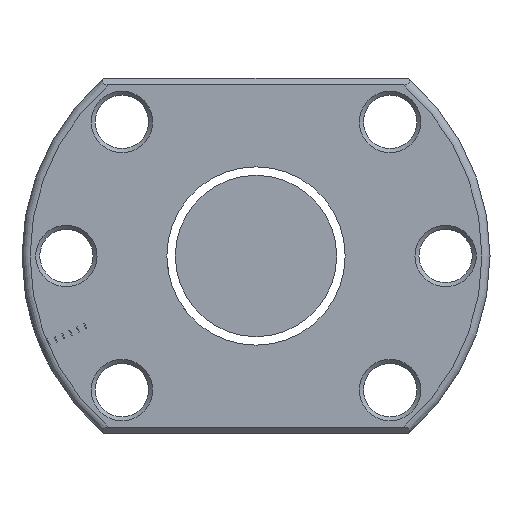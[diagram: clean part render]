
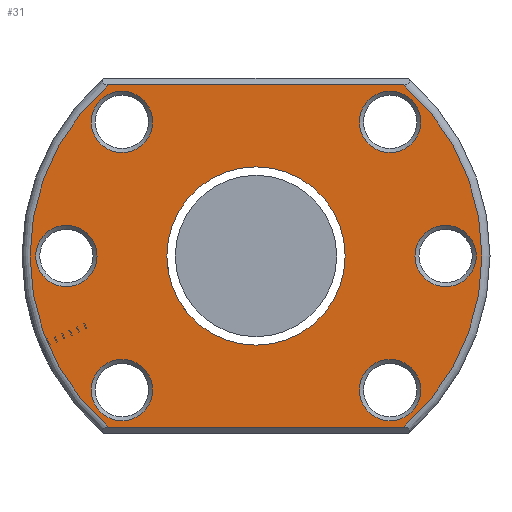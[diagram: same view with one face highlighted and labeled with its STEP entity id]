
A CAD part, left-side view. The second image highlights one B-rep face of the part: STEP entity #31.
In plain terms, the highlighted planar face has unit normal (-1, 0, 0).
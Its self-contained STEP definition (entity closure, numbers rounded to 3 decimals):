
#31 = ADVANCED_FACE ( 'NONE', ( #1393, #2676, #484, #2642, #2880, #705, #2162, #2425 ), #986, .T. ) ;
#49 = LINE ( 'NONE', #1010, #2459 ) ;
#64 = DIRECTION ( 'NONE',  ( 1., 0., 0. ) ) ;
#77 = ORIENTED_EDGE ( 'NONE', *, *, #749, .T. ) ;
#86 = AXIS2_PLACEMENT_3D ( 'NONE', #1630, #924, #2357 ) ;
#138 = VERTEX_POINT ( 'NONE', #2912 ) ;
#164 = DIRECTION ( 'NONE',  ( 0., -1., 0. ) ) ;
#176 = CARTESIAN_POINT ( 'NONE',  ( -51., 11.05, 0. ) ) ;
#187 = AXIS2_PLACEMENT_3D ( 'NONE', #1304, #2578, #164 ) ;
#218 = AXIS2_PLACEMENT_3D ( 'NONE', #2473, #2782, #1978 ) ;
#328 = AXIS2_PLACEMENT_3D ( 'NONE', #1846, #1325, #869 ) ;
#329 = ORIENTED_EDGE ( 'NONE', *, *, #1867, .T. ) ;
#343 = CIRCLE ( 'NONE', #187, 3.8 ) ;
#390 = VERTEX_POINT ( 'NONE', #1370 ) ;
#431 = VECTOR ( 'NONE', #2984, 1000. ) ;
#442 = CIRCLE ( 'NONE', #2215, 28. ) ;
#448 = CARTESIAN_POINT ( 'NONE',  ( -51., -20.417, 16.617 ) ) ;
#477 = EDGE_CURVE ( 'NONE', #2366, #2366, #696, .T. ) ;
#484 = FACE_BOUND ( 'NONE', #2710, .T. ) ;
#502 = CARTESIAN_POINT ( 'NONE',  ( -51., 29., 0. ) ) ;
#510 = DIRECTION ( 'NONE',  ( -1., 0., 0. ) ) ;
#603 = CARTESIAN_POINT ( 'NONE',  ( -51., -16.617, -16.617 ) ) ;
#629 = ORIENTED_EDGE ( 'NONE', *, *, #2810, .T. ) ;
#653 = EDGE_CURVE ( 'NONE', #390, #390, #343, .T. ) ;
#695 = EDGE_CURVE ( 'NONE', #138, #2503, #442, .T. ) ;
#696 = CIRCLE ( 'NONE', #86, 3.8 ) ;
#705 = FACE_BOUND ( 'NONE', #1814, .T. ) ;
#748 = DIRECTION ( 'NONE',  ( 0., -1., 0. ) ) ;
#749 = EDGE_CURVE ( 'NONE', #2096, #2096, #2827, .T. ) ;
#840 = AXIS2_PLACEMENT_3D ( 'NONE', #2305, #64, #1520 ) ;
#847 = EDGE_CURVE ( 'NONE', #2185, #2618, #2930, .T. ) ;
#860 = VERTEX_POINT ( 'NONE', #1835 ) ;
#869 = DIRECTION ( 'NONE',  ( 0., -1., 0. ) ) ;
#893 = EDGE_LOOP ( 'NONE', ( #1128 ) ) ;
#897 = CARTESIAN_POINT ( 'NONE',  ( -51., 18.291, 21.2 ) ) ;
#924 = DIRECTION ( 'NONE',  ( 1., 0., 0. ) ) ;
#939 = DIRECTION ( 'NONE',  ( -1., 0., 0. ) ) ;
#978 = CARTESIAN_POINT ( 'NONE',  ( -51., 0., 0. ) ) ;
#984 = CIRCLE ( 'NONE', #840, 3.8 ) ;
#986 = PLANE ( 'NONE',  #2824 ) ;
#1010 = CARTESIAN_POINT ( 'NONE',  ( -51., -18.894, -21.2 ) ) ;
#1072 = ORIENTED_EDGE ( 'NONE', *, *, #477, .T. ) ;
#1102 = ORIENTED_EDGE ( 'NONE', *, *, #1309, .T. ) ;
#1128 = ORIENTED_EDGE ( 'NONE', *, *, #1909, .T. ) ;
#1161 = EDGE_LOOP ( 'NONE', ( #1102 ) ) ;
#1178 = ORIENTED_EDGE ( 'NONE', *, *, #653, .T. ) ;
#1304 = CARTESIAN_POINT ( 'NONE',  ( -51., 23.5, 0. ) ) ;
#1309 = EDGE_CURVE ( 'NONE', #2855, #2855, #1373, .T. ) ;
#1325 = DIRECTION ( 'NONE',  ( 1., 0., 0. ) ) ;
#1370 = CARTESIAN_POINT ( 'NONE',  ( -51., 19.7, 0. ) ) ;
#1373 = CIRCLE ( 'NONE', #218, 3.8 ) ;
#1393 = FACE_BOUND ( 'NONE', #1629, .T. ) ;
#1403 = VERTEX_POINT ( 'NONE', #2620 ) ;
#1432 = EDGE_LOOP ( 'NONE', ( #77 ) ) ;
#1443 = DIRECTION ( 'NONE',  ( 0., -1., 0. ) ) ;
#1504 = EDGE_LOOP ( 'NONE', ( #629, #3073, #1730, #2490 ) ) ;
#1514 = CARTESIAN_POINT ( 'NONE',  ( -51., 18.894, 21.2 ) ) ;
#1517 = DIRECTION ( 'NONE',  ( -1., 0., 0. ) ) ;
#1520 = DIRECTION ( 'NONE',  ( 0., -1., 0. ) ) ;
#1596 = VERTEX_POINT ( 'NONE', #2574 ) ;
#1629 = EDGE_LOOP ( 'NONE', ( #1072 ) ) ;
#1630 = CARTESIAN_POINT ( 'NONE',  ( -51., 16.617, -16.617 ) ) ;
#1730 = ORIENTED_EDGE ( 'NONE', *, *, #2266, .T. ) ;
#1786 = DIRECTION ( 'NONE',  ( 0., -1., 0. ) ) ;
#1814 = EDGE_LOOP ( 'NONE', ( #1178 ) ) ;
#1819 = DIRECTION ( 'NONE',  ( 1., 0., 0. ) ) ;
#1835 = CARTESIAN_POINT ( 'NONE',  ( -51., -27.3, 0. ) ) ;
#1846 = CARTESIAN_POINT ( 'NONE',  ( -51., -23.5, 0. ) ) ;
#1867 = EDGE_CURVE ( 'NONE', #860, #860, #2860, .T. ) ;
#1909 = EDGE_CURVE ( 'NONE', #1403, #1403, #2767, .T. ) ;
#1959 = AXIS2_PLACEMENT_3D ( 'NONE', #978, #1517, #2018 ) ;
#1978 = DIRECTION ( 'NONE',  ( 0., -1., 0. ) ) ;
#2018 = DIRECTION ( 'NONE',  ( 0., -1., 0. ) ) ;
#2096 = VERTEX_POINT ( 'NONE', #176 ) ;
#2148 = AXIS2_PLACEMENT_3D ( 'NONE', #603, #1819, #1786 ) ;
#2162 = FACE_OUTER_BOUND ( 'NONE', #1504, .T. ) ;
#2185 = VERTEX_POINT ( 'NONE', #897 ) ;
#2215 = AXIS2_PLACEMENT_3D ( 'NONE', #2683, #510, #2651 ) ;
#2266 = EDGE_CURVE ( 'NONE', #2503, #2185, #2935, .T. ) ;
#2305 = CARTESIAN_POINT ( 'NONE',  ( -51., 16.617, 16.617 ) ) ;
#2350 = CARTESIAN_POINT ( 'NONE',  ( -51., 12.817, -16.617 ) ) ;
#2357 = DIRECTION ( 'NONE',  ( 0., -1., 0. ) ) ;
#2366 = VERTEX_POINT ( 'NONE', #2350 ) ;
#2425 = FACE_BOUND ( 'NONE', #1432, .T. ) ;
#2459 = VECTOR ( 'NONE', #748, 1000. ) ;
#2462 = DIRECTION ( 'NONE',  ( 0., 1., 0. ) ) ;
#2473 = CARTESIAN_POINT ( 'NONE',  ( -51., -16.617, 16.617 ) ) ;
#2490 = ORIENTED_EDGE ( 'NONE', *, *, #847, .T. ) ;
#2503 = VERTEX_POINT ( 'NONE', #2644 ) ;
#2574 = CARTESIAN_POINT ( 'NONE',  ( -51., 12.817, 16.617 ) ) ;
#2578 = DIRECTION ( 'NONE',  ( 1., 0., 0. ) ) ;
#2593 = CARTESIAN_POINT ( 'NONE',  ( -51., 18.291, -21.2 ) ) ;
#2618 = VERTEX_POINT ( 'NONE', #2593 ) ;
#2620 = CARTESIAN_POINT ( 'NONE',  ( -51., -20.417, -16.617 ) ) ;
#2636 = CARTESIAN_POINT ( 'NONE',  ( -51., 0., 0. ) ) ;
#2642 = FACE_BOUND ( 'NONE', #1161, .T. ) ;
#2644 = CARTESIAN_POINT ( 'NONE',  ( -51., -18.291, 21.2 ) ) ;
#2651 = DIRECTION ( 'NONE',  ( 0., -1., 0. ) ) ;
#2674 = AXIS2_PLACEMENT_3D ( 'NONE', #2636, #2939, #2462 ) ;
#2676 = FACE_BOUND ( 'NONE', #893, .T. ) ;
#2683 = CARTESIAN_POINT ( 'NONE',  ( -51., 0., 0. ) ) ;
#2710 = EDGE_LOOP ( 'NONE', ( #329 ) ) ;
#2767 = CIRCLE ( 'NONE', #2148, 3.8 ) ;
#2782 = DIRECTION ( 'NONE',  ( 1., 0., 0. ) ) ;
#2810 = EDGE_CURVE ( 'NONE', #2618, #138, #49, .T. ) ;
#2824 = AXIS2_PLACEMENT_3D ( 'NONE', #502, #939, #1443 ) ;
#2827 = CIRCLE ( 'NONE', #2674, 11.05 ) ;
#2855 = VERTEX_POINT ( 'NONE', #448 ) ;
#2860 = CIRCLE ( 'NONE', #328, 3.8 ) ;
#2880 = FACE_BOUND ( 'NONE', #2940, .T. ) ;
#2912 = CARTESIAN_POINT ( 'NONE',  ( -51., -18.291, -21.2 ) ) ;
#2923 = EDGE_CURVE ( 'NONE', #1596, #1596, #984, .T. ) ;
#2924 = ORIENTED_EDGE ( 'NONE', *, *, #2923, .T. ) ;
#2930 = CIRCLE ( 'NONE', #1959, 28. ) ;
#2935 = LINE ( 'NONE', #1514, #431 ) ;
#2939 = DIRECTION ( 'NONE',  ( 1., 0., 0. ) ) ;
#2940 = EDGE_LOOP ( 'NONE', ( #2924 ) ) ;
#2984 = DIRECTION ( 'NONE',  ( 0., 1., 0. ) ) ;
#3073 = ORIENTED_EDGE ( 'NONE', *, *, #695, .T. ) ;
